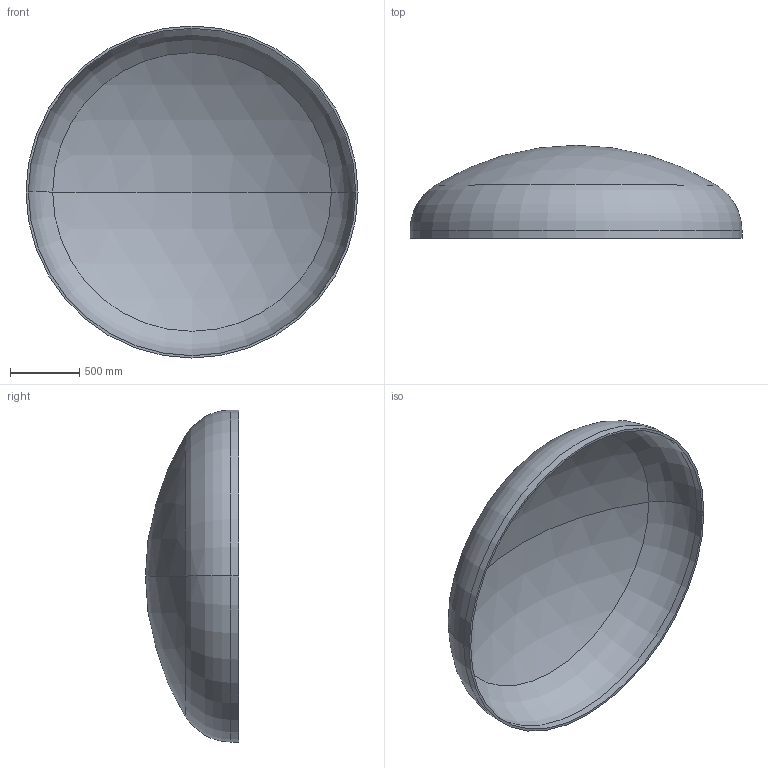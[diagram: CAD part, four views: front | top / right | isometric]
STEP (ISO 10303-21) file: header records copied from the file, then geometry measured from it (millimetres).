
FILE_DESCRIPTION (( 'STEP AP203' ), '1' );
FILE_NAME ('DIN 28013 Korbbogenform_-_Boden DIN 28013 - 2400 x 55 - I - s=17.step', '2016-07-01T15:08:01', ( '' ), ( '' ), 'SwSTEP 2.0', 'SolidWorks 2013', '' );
FILE_SCHEMA (( 'CONFIG_CONTROL_DESIGN' ));
Length unit declared in the file: millimetre
Products named in the file (1): DIN 28013 Korbbogenform_-_Boden DIN 28013 - 2400 x 55 - I - s=17
Bounding box: 2400 x 672.33 x 2400 mm (x, y, z)
Volume: 112544426.2 mm3; surface area: 13368390 mm2
Topology: 1 solids, 1 shells, 13 faces, 24 edges, 14 vertices
Faces by surface type: torus 4, cylinder 4, sphere 4, plane 1
Entity records: 407 total; most frequent: DIRECTION 72, CARTESIAN_POINT 52, ORIENTED_EDGE 48, AXIS2_PLACEMENT_3D 34, EDGE_CURVE 24, CIRCLE 20, VERTEX_POINT 14, EDGE_LOOP 14
